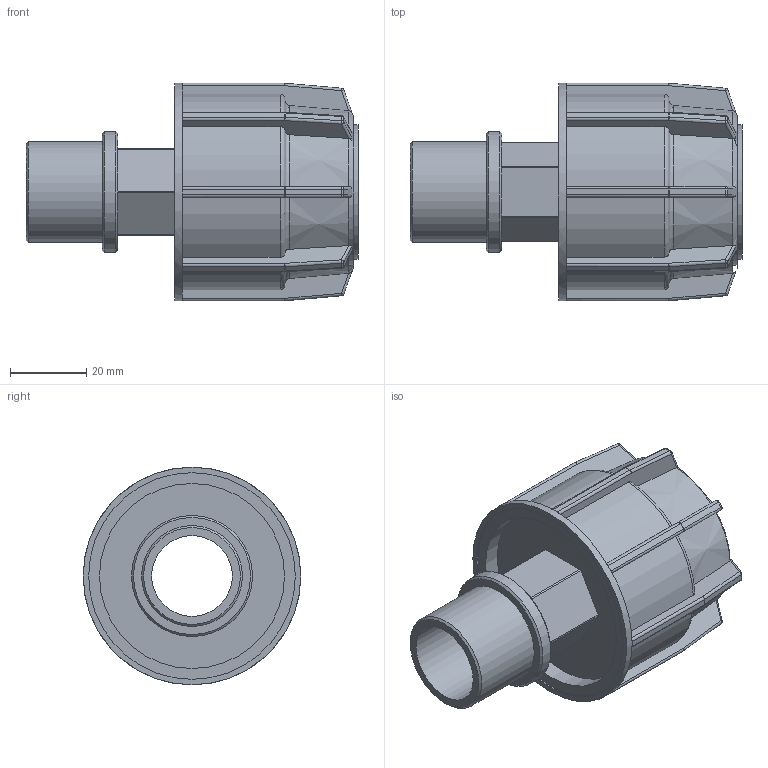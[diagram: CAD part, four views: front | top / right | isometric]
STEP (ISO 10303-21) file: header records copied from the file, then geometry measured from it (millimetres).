
FILE_DESCRIPTION(/* description */ ('PLASSON IRRIFIT ADAPTOR 32-1"M'),/* implementation_level */ '2;1');
FILE_NAME(/* name */ 'C:\Dropbox\KIMPROJECTS-Inventor\99-16-3568-Processing\Silver+MF ISRAEL\040207\040207032010.ipt.stp',/* time_stamp */ '2018-04-09T12:59:42+03:00',/* author */ ('KIM'),/* organization */ (''),/* preprocessor_version */ 'ST-DEVELOPER v15.6',/* originating_system */ 'Autodesk Inventor 2015',/* authorisation */ '');
FILE_SCHEMA (('AUTOMOTIVE_DESIGN { 1 0 10303 214 3 1 1 }'));
Length unit declared in the file: millimetre
Products named in the file (1): 040207032010
Bounding box: 87 x 57 x 57 mm (x, y, z)
Volume: 58694.5 mm3; surface area: 26134.6 mm2
Topology: 1 solids, 1 shells, 283 faces, 664 edges, 386 vertices
Faces by surface type: plane 142, cylinder 81, sphere 32, torus 17, cone 11
Full cylindrical faces by diameter (mm): 21.153 x1, 26.441 x1, 31.729 x1, 32 x1, 35.2 x1, 38.4 x1, 48.45 x1, 54.15 x1, 57 x1
Entity records: 8330 total; most frequent: CARTESIAN_POINT 2112, DIRECTION 1300, ORIENTED_EDGE 1280, EDGE_CURVE 640, AXIS2_PLACEMENT_3D 512, VERTEX_POINT 380, EDGE_LOOP 306, FACE_OUTER_BOUND 283
